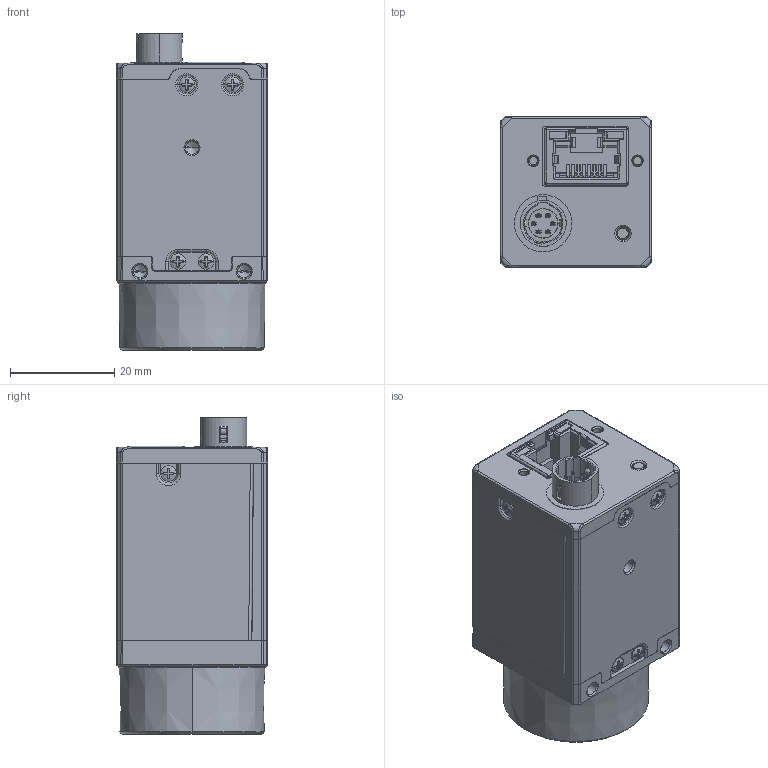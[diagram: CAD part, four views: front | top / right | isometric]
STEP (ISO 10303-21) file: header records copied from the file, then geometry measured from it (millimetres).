
FILE_DESCRIPTION((''),'2;1');
FILE_NAME('00-CUG_GK_ASM','2024-12-25T20:54:48',('zhangqianwen8'),(''),'CREO PARAMETRIC BY PTC INC, 2020044','CREO PARAMETRIC BY PTC INC, 2020044','');
FILE_SCHEMA(('CONFIG_CONTROL_DESIGN'));
Products named in the file (16): 102200787; D-01-35-26-0007_6; DE-13-002304; CU0001_ASM; 101305700; MV-23041REV10-IO_ASM; 101306454; MV-23041REV10-LAN_ASM; MV23041REV10_ASM; D-01-35-26-0837; DE-11-012833-90; DE-13-002468; DE-13-000605; CU0002_ASM; SC_T1M2X3B_2; 00-CUG_GK_ASM
Assembly tree (23 placements, depth 5):
  00-CUG_GK_ASM
    CU0001_ASM
      102200787
      D-01-35-26-0007_6
      DE-13-002304
    CU0002_ASM
      MV23041REV10_ASM
        MV-23041REV10-IO_ASM
          101305700
        MV-23041REV10-LAN_ASM
          101306454
      D-01-35-26-0837
      DE-11-012833-90
      DE-13-002468
      DE-13-000605
    SC_T1M2X3B_2  x9
Bounding box: 29 x 29 x 60.83 mm (x, y, z)
Volume: 20001.6 mm3; surface area: 27881.9 mm2
Topology: 22 solids, 65 shells, 3725 faces, 10231 edges, 6568 vertices
Faces by surface type: plane 1734, cylinder 871, bspline 572, cone 302, torus 207, sphere 26, extrusion 13
Entity records: 124402 total; most frequent: CARTESIAN_POINT 49594, ORIENTED_EDGE 16687, DIRECTION 13694, EDGE_CURVE 8446, VERTEX_POINT 5464, VECTOR 4890, LINE 4877, AXIS2_PLACEMENT_3D 4402
